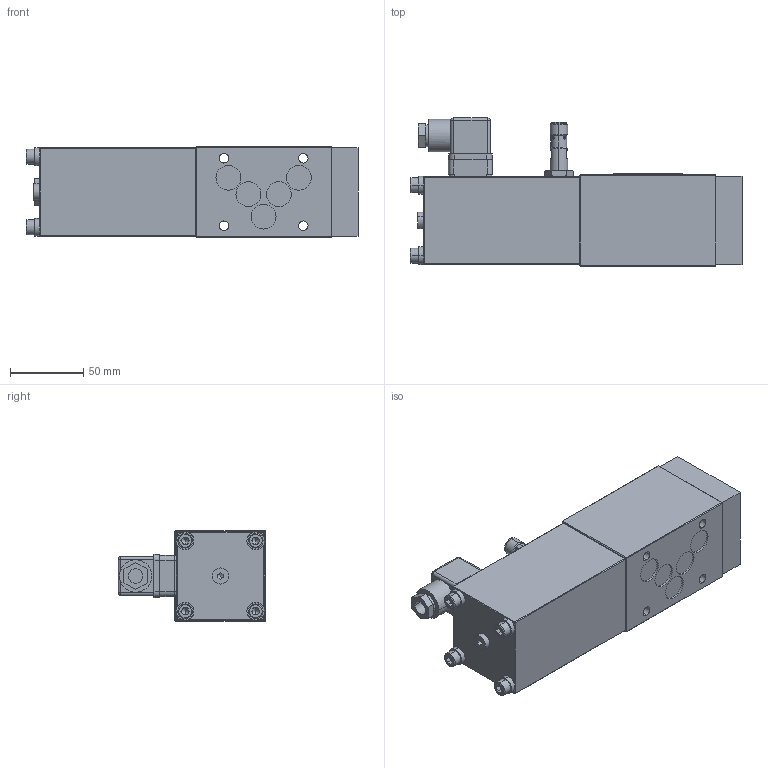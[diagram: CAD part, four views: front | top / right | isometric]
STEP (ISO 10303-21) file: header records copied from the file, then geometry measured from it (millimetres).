
FILE_DESCRIPTION (( 'STEP AP214' ), '1' );
FILE_NAME ('A.32101a-P1a.STEP', '2022-09-23T12:38:33', ( '' ), ( '' ), 'SwSTEP 2.0', 'SolidWorks 2020', '' );
FILE_SCHEMA (( 'AUTOMOTIVE_DESIGN' ));
Length unit declared in the file: millimetre
Products named in the file (1): A.32101a-P1a
Bounding box: 226.2 x 100.8 x 62 mm (x, y, z)
Volume: 835501.7 mm3; surface area: 77524.2 mm2
Topology: 1 solids, 1 shells, 511 faces, 1193 edges, 724 vertices
Faces by surface type: plane 309, cylinder 114, cone 38, bspline 34, torus 16
Entity records: 20873 total; most frequent: CARTESIAN_POINT 3963, DIRECTION 2414, ORIENTED_EDGE 2342, EDGE_CURVE 1171, AXIS2_PLACEMENT_3D 843, LINE 728, VECTOR 728, VERTEX_POINT 724
